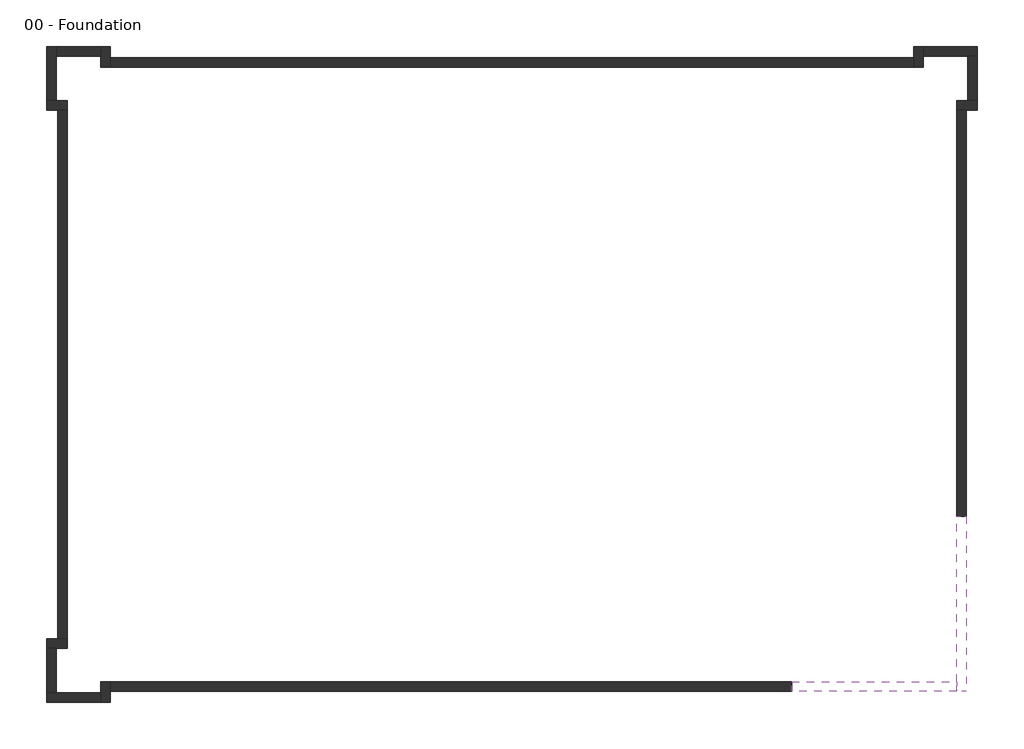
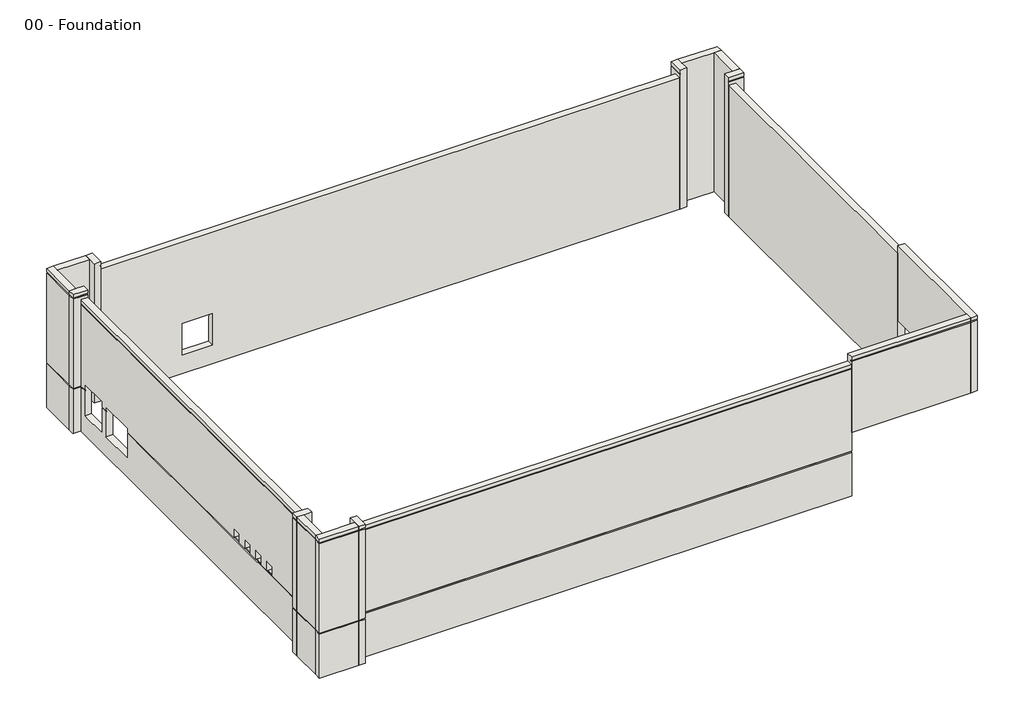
# One storey: 18 walls.
"""IFC4 building model written with IfcOpenShell, lengths in millimetres."""

from ifc_helpers import new_model, si_unit, frame, origin, place, context, project, spatial, polyline, outline, extrude, faceted_brep, element, save

model = new_model("IFC4")

# Units and contexts
model_context = context("Model", 3, world=origin())
ifc_project = project(units=[si_unit("LENGTHUNIT", "METRE", prefix="MILLI")], contexts=[model_context])

# Site, building, storey
site = spatial("IfcSite", under=ifc_project)
building = spatial("IfcBuilding", under=site)
storey = spatial("IfcBuildingStorey", under=building, Name="00 - Foundation", Elevation=-1250.0)

# Walls
placement = place(None, origin())
element("IfcWall", 1, ObjectType="Exterior - Render on Brick on Block @ Entry", at=placement, inside=storey, context=model_context, shape_type="Brep", body=[
    faceted_brep([(18351.5272279, -6481.9313057, 3000.0), (18351.5272279, -13977.9313057, 3000.0), (18351.5272279, -14406.9313057, 3000.0), (18351.5272279, -14406.9313057, 7700.0), (18351.5272279, -14331.9313057, 7700.0), (18351.5272279, -14331.9313057, 7775.0), (18351.5272279, -14406.9313057, 7775.0), (18351.5272279, -14406.9313057, 8000.0), (18351.5272279, -13977.9313057, 8000.0), (18351.5272279, -6481.9313057, 8000.0), (18351.5272279, -6481.9313057, 7500.0), (18780.5272279, -14406.9313057, 3000.0), (18780.5272279, -6481.9313057, 3000.0), (18780.5272279, -6481.9313057, 7200.0), (18780.5272279, -6481.9313057, 7275.0), (18780.5272279, -6481.9313057, 7500.0), (18780.5272279, -6481.9313057, 7700.0), (18780.5272279, -14406.9313057, 7700.0), (18780.5272279, -6481.9313057, 8000.0), (18780.5272279, -14406.9313057, 8000.0), (18780.5272279, -14406.9313057, 7775.0), (18780.5272279, -6481.9313057, 7775.0), (18705.5272279, -6481.9313057, 7775.0), (18705.5272279, -6481.9313057, 7700.0), (18705.5272279, -14331.9313057, 7775.0), (18705.5272279, -14331.9313057, 7700.0)], [[[0, 1, 2, 3, 4, 5, 6, 7, 8, 9, 10]], [[11, 12, 13, 14, 15, 16, 17]], [[18, 19, 20, 21]], [[2, 1, 0, 12, 11]], [[9, 8, 7, 19, 18]], [[0, 10, 9, 18, 21, 22, 23, 16, 15, 14, 13, 12]], [[24, 22, 21, 20, 6, 5]], [[23, 25, 4, 3, 17, 16]], [[22, 24, 25, 23]], [[2, 11, 17, 3]], [[19, 7, 6, 20]], [[25, 24, 5, 4]]]),
])
element("IfcWall", 2, ObjectType="Exterior - Render on Brick on Block @ Entry", at=placement, inside=storey, context=model_context, shape_type="Brep", body=[
    faceted_brep([(18351.5272279, -13977.9313057, 3000.0), (10855.5272279, -13977.9313057, 3000.0), (10855.5272279, -13977.9313057, 7500.0), (10855.5272279, -13977.9313057, 8000.0), (18351.5272279, -13977.9313057, 8000.0), (10855.5272279, -14406.9313057, 3000.0), (18351.5272279, -14406.9313057, 3000.0), (18351.5272279, -14406.9313057, 7700.0), (10855.5272279, -14406.9313057, 7700.0), (10855.5272279, -14406.9313057, 7500.0), (10855.5272279, -14406.9313057, 7275.0), (10855.5272279, -14406.9313057, 7200.0), (18351.5272279, -14406.9313057, 8000.0), (10855.5272279, -14406.9313057, 8000.0), (10855.5272279, -14406.9313057, 7775.0), (18351.5272279, -14406.9313057, 7775.0), (10855.5272279, -14331.9313057, 7700.0), (10855.5272279, -14331.9313057, 7775.0), (18351.5272279, -14331.9313057, 7700.0), (18351.5272279, -14331.9313057, 7775.0)], [[[0, 1, 2, 3, 4]], [[5, 6, 7, 8, 9, 10, 11]], [[12, 13, 14, 15]], [[1, 0, 6, 5]], [[3, 2, 1, 5, 11, 10, 9, 8, 16, 17, 14, 13]], [[4, 3, 13, 12]], [[16, 18, 19, 17]], [[0, 4, 12, 15, 19, 18, 7, 6]], [[17, 19, 15, 14]], [[18, 16, 8, 7]]]),
])
element("IfcWall", 3, ObjectType="Exterior - Render on Brick on Block", at=placement, inside=storey, context=model_context, shape_type="Brep", body=[
    faceted_brep([(10855.5272279, -13977.9313057, -1250.0), (-20031.4727721, -13977.9313057, -1250.0), (-20031.4727721, -13977.9313057, 7500.0), (10855.5272279, -13977.9313057, 7500.0), (10855.5272279, -13977.9313057, 3000.0), (10855.5272279, -14406.9313057, 7500.0), (-20031.4727721, -14406.9313057, 7500.0), (-20031.4727721, -14406.9313057, 7275.0), (10855.5272279, -14406.9313057, 7275.0), (-20031.4727721, -14406.9313057, -1250.0), (10855.5272279, -14406.9313057, -1250.0), (10855.5272279, -14406.9313057, 1675.0), (-20031.4727721, -14406.9313057, 1675.0), (-20031.4727721, -14406.9313057, 1750.0), (10855.5272279, -14406.9313057, 1750.0), (10855.5272279, -14406.9313057, 7200.0), (-20031.4727721, -14406.9313057, 7200.0), (10855.5272279, -14331.9313057, 7275.0), (10855.5272279, -14331.9313057, 7200.0), (10855.5272279, -14331.9313057, 1750.0), (10855.5272279, -14331.9313057, 1675.0), (10855.5272279, -14381.9313057, -1250.0), (-20031.4727721, -14381.9313057, -1250.0), (-20031.4727721, -14331.9313057, 1750.0), (-20031.4727721, -14331.9313057, 1675.0), (-20031.4727721, -14331.9313057, 7275.0), (-20031.4727721, -14331.9313057, 7200.0)], [[[0, 1, 2, 3, 4]], [[5, 6, 7, 8]], [[9, 10, 11, 12]], [[13, 14, 15, 16]], [[3, 2, 6, 5]], [[0, 4, 3, 5, 8, 17, 18, 15, 14, 19, 20, 11, 10, 21]], [[1, 0, 21, 22]], [[21, 10, 9, 22]], [[14, 13, 23, 19]], [[12, 11, 20, 24]], [[20, 19, 23, 24]], [[25, 17, 8, 7]], [[18, 26, 16, 15]], [[17, 25, 26, 18]], [[2, 1, 22, 9, 12, 24, 23, 13, 16, 26, 25, 7, 6]]]),
])
element("IfcWall", 4, ObjectType="Exterior - Render on Brick on Block", at=placement, inside=storey, context=model_context, shape_type="Brep", body=[
    faceted_brep([(-20460.4727721, -13977.9313057, -1250.0), (-20460.4727721, -14477.7313057, -1250.0), (-20460.4727721, -14906.7313057, -1250.0), (-20460.4727721, -14906.7313057, 1675.0), (-20460.4727721, -14831.7313057, 1675.0), (-20460.4727721, -14831.7313057, 1750.0), (-20460.4727721, -14906.7313057, 1750.0), (-20460.4727721, -14906.7313057, 7700.0), (-20460.4727721, -14831.7313057, 7700.0), (-20460.4727721, -14831.7313057, 7775.0), (-20460.4727721, -14906.7313057, 7775.0), (-20460.4727721, -14906.7313057, 8000.0), (-20460.4727721, -14477.7313057, 8000.0), (-20460.4727721, -13977.9313057, 8000.0), (-20031.4727721, -13977.9313057, 8000.0), (-20031.4727721, -14906.7313057, 8000.0), (-20031.4727721, -14906.7313057, 7775.0), (-20031.4727721, -13977.9313057, 7775.0), (-20031.4727721, -14906.7313057, -1250.0), (-20031.4727721, -14406.9313057, -1250.0), (-20031.4727721, -13977.9313057, -1250.0), (-20031.4727721, -13977.9313057, 7500.0), (-20031.4727721, -13977.9313057, 7700.0), (-20031.4727721, -14906.7313057, 7700.0), (-20031.4727721, -14906.7313057, 1750.0), (-20031.4727721, -14406.9313057, 1750.0), (-20031.4727721, -14331.9313057, 1750.0), (-20031.4727721, -14331.9313057, 1675.0), (-20031.4727721, -14406.9313057, 1675.0), (-20031.4727721, -14906.7313057, 1675.0), (-20056.4727721, -13977.9313057, -1250.0), (-20056.4727721, -14906.7313057, -1250.0), (-20106.4727721, -14331.9313057, 1675.0), (-20106.4727721, -14331.9313057, 1750.0), (-20106.4727721, -14831.7313057, 1750.0), (-20106.4727721, -14831.7313057, 1675.0), (-20106.4727721, -14831.7313057, 7775.0), (-20106.4727721, -13977.9313057, 7775.0), (-20106.4727721, -13977.9313057, 7700.0), (-20106.4727721, -14831.7313057, 7700.0)], [[[0, 1, 2, 3, 4, 5, 6, 7, 8, 9, 10, 11, 12, 13]], [[14, 15, 16, 17]], [[18, 19, 20, 21, 22, 23, 24, 25, 26, 27, 28, 29]], [[13, 12, 11, 15, 14]], [[2, 1, 0, 30, 31]], [[32, 33, 34, 35]], [[36, 37, 17, 16, 10, 9]], [[38, 39, 8, 7, 23, 22]], [[37, 36, 39, 38]], [[0, 13, 14, 17, 37, 38, 22, 21, 20, 30]], [[20, 19, 18, 31, 30]], [[34, 33, 26, 25, 24, 6, 5]], [[32, 35, 4, 3, 29, 28, 27]], [[33, 32, 27, 26]], [[15, 11, 10, 16]], [[2, 31, 18, 29, 3]], [[6, 24, 23, 7]], [[35, 34, 5, 4]], [[39, 36, 9, 8]]]),
])
element("IfcWall", 5, ObjectType="Exterior - Render on Brick on Block", at=placement, inside=storey, context=model_context, shape_type="Brep", body=[
    faceted_brep([(-20460.4727721, -14477.7313057, -1250.0), (-22490.4727721, -14477.7313057, -1250.0), (-22919.4727721, -14477.7313057, -1250.0), (-22919.4727721, -14477.7313057, 1675.0), (-22844.4727721, -14477.7313057, 1675.0), (-22844.4727721, -14477.7313057, 1750.0), (-22919.4727721, -14477.7313057, 1750.0), (-22919.4727721, -14477.7313057, 7700.0), (-22844.4727721, -14477.7313057, 7700.0), (-22844.4727721, -14477.7313057, 7775.0), (-22919.4727721, -14477.7313057, 7775.0), (-22919.4727721, -14477.7313057, 8000.0), (-22490.4727721, -14477.7313057, 8000.0), (-20460.4727721, -14477.7313057, 8000.0), (-20460.4727721, -14906.7313057, 8000.0), (-22919.4727721, -14906.7313057, 8000.0), (-22919.4727721, -14906.7313057, 7775.0), (-20460.4727721, -14906.7313057, 7775.0), (-22919.4727721, -14906.7313057, -1250.0), (-20460.4727721, -14906.7313057, -1250.0), (-20460.4727721, -14906.7313057, 1675.0), (-22919.4727721, -14906.7313057, 1675.0), (-22919.4727721, -14906.7313057, 1750.0), (-20460.4727721, -14906.7313057, 1750.0), (-20460.4727721, -14906.7313057, 7700.0), (-22919.4727721, -14906.7313057, 7700.0), (-20460.4727721, -14881.7313057, -1250.0), (-22919.4727721, -14881.7313057, -1250.0), (-22844.4727721, -14831.7313057, 1675.0), (-20460.4727721, -14831.7313057, 1675.0), (-20460.4727721, -14831.7313057, 1750.0), (-22844.4727721, -14831.7313057, 1750.0), (-22844.4727721, -14831.7313057, 7775.0), (-22844.4727721, -14831.7313057, 7700.0), (-20460.4727721, -14831.7313057, 7700.0), (-20460.4727721, -14831.7313057, 7775.0)], [[[0, 1, 2, 3, 4, 5, 6, 7, 8, 9, 10, 11, 12, 13]], [[14, 15, 16, 17]], [[18, 19, 20, 21]], [[22, 23, 24, 25]], [[13, 12, 11, 15, 14]], [[2, 1, 0, 26, 27]], [[28, 29, 30, 31]], [[32, 33, 34, 35]], [[0, 13, 14, 17, 35, 34, 24, 23, 30, 29, 20, 19, 26]], [[19, 18, 27, 26]], [[31, 30, 23, 22, 6, 5]], [[29, 28, 4, 3, 21, 20]], [[9, 32, 35, 17, 16, 10]], [[34, 33, 8, 7, 25, 24]], [[15, 11, 10, 16]], [[2, 27, 18, 21, 3]], [[6, 22, 25, 7]], [[28, 31, 5, 4]], [[33, 32, 9, 8]]]),
])
element("IfcWall", 6, ObjectType="Exterior - Render on Brick on Block", at=placement, inside=storey, context=model_context, shape_type="SweptSolid", body=[
    extrude(outline(polyline([(-1250.0, -22490.4727721), (8000.0, -22490.4727721), (8000.0, -22919.4727721), (7775.0, -22919.4727721), (7775.0, -22844.4727721), (7700.0, -22844.4727721), (7700.0, -22919.4727721), (1750.0, -22919.4727721), (1750.0, -22844.4727721), (1675.0, -22844.4727721), (1675.0, -22919.4727721), (-1250.0, -22919.4727721), (-1250.0, -22894.4727721), (-1250.0, -22490.4727721)])), frame((0.0, -14477.7313057, 0.0), z_axis=(0.0, 1.0, 0.0), x_axis=(0.0, 0.0, 1.0)), (0.0, 0.0, 1.0), 2030.0),
])
element("IfcWall", 7, ObjectType="Exterior - Render on Brick on Block", at=placement, inside=storey, context=model_context, shape_type="Brep", body=[
    faceted_brep([(-22919.4727721, -12447.7313057, -1250.0), (-22490.4727721, -12447.7313057, -1250.0), (-21990.4727721, -12447.7313057, -1250.0), (-21990.4727721, -12447.7313057, 8000.0), (-22490.4727721, -12447.7313057, 8000.0), (-22919.4727721, -12447.7313057, 8000.0), (-22919.4727721, -12447.7313057, 7775.0), (-22844.4727721, -12447.7313057, 7775.0), (-22844.4727721, -12447.7313057, 7700.0), (-22919.4727721, -12447.7313057, 7700.0), (-22919.4727721, -12447.7313057, 1750.0), (-22844.4727721, -12447.7313057, 1750.0), (-22844.4727721, -12447.7313057, 1675.0), (-22919.4727721, -12447.7313057, 1675.0), (-22919.4727721, -12018.7313057, 8000.0), (-21990.4727721, -12018.7313057, 8000.0), (-21990.4727721, -12018.7313057, 7775.0), (-22919.4727721, -12018.7313057, 7775.0), (-21990.4727721, -12018.7313057, -1250.0), (-22419.4727721, -12018.7313057, -1250.0), (-22919.4727721, -12018.7313057, -1250.0), (-22919.4727721, -12018.7313057, 1675.0), (-22419.4727721, -12018.7313057, 1675.0), (-22344.4727721, -12018.7313057, 1675.0), (-22344.4727721, -12018.7313057, 1750.0), (-22419.4727721, -12018.7313057, 1750.0), (-22919.4727721, -12018.7313057, 1750.0), (-22919.4727721, -12018.7313057, 7700.0), (-21990.4727721, -12018.7313057, 7700.0), (-21990.4727721, -12018.7313057, 7500.0), (-22919.4727721, -12043.7313057, -1250.0), (-21990.4727721, -12043.7313057, -1250.0), (-22844.4727721, -12093.7313057, 1675.0), (-22844.4727721, -12093.7313057, 1750.0), (-22344.4727721, -12093.7313057, 1750.0), (-22344.4727721, -12093.7313057, 1675.0), (-22844.4727721, -12093.7313057, 7775.0), (-21990.4727721, -12093.7313057, 7775.0), (-21990.4727721, -12093.7313057, 7700.0), (-22844.4727721, -12093.7313057, 7700.0)], [[[0, 1, 2, 3, 4, 5, 6, 7, 8, 9, 10, 11, 12, 13]], [[14, 15, 16, 17]], [[18, 19, 20, 21, 22, 23, 24, 25, 26, 27, 28, 29]], [[5, 4, 3, 15, 14]], [[2, 1, 0, 30, 31]], [[32, 33, 34, 35]], [[36, 37, 38, 39]], [[5, 14, 17, 6]], [[30, 0, 13, 21, 20]], [[26, 10, 9, 27]], [[20, 19, 18, 31, 30]], [[34, 33, 11, 10, 26, 25, 24]], [[32, 35, 23, 22, 21, 13, 12]], [[33, 32, 12, 11]], [[37, 36, 7, 6, 17, 16]], [[39, 38, 28, 27, 9, 8]], [[36, 39, 8, 7]], [[3, 2, 31, 18, 29, 28, 38, 37, 16, 15]], [[35, 34, 24, 23]]]),
])
element("IfcWall", 8, ObjectType="Exterior - Render on Brick on Block", at=placement, inside=storey, context=model_context, shape_type="Brep", body=[
    faceted_brep([(-21990.4727721, -12018.7313057, -1250.0), (-21990.4727721, 11955.0686943, -1250.0), (-21990.4727721, 11955.0686943, 7500.0), (-21990.4727721, -12018.7313057, 7500.0), (-21990.4727721, 9255.0686943, 2000.0), (-21990.4727721, 9255.0686943, 0.0), (-21990.4727721, 6855.0686943, 0.0), (-21990.4727721, 6855.0686943, 2000.0), (-21990.4727721, 9655.0686943, 2100.0), (-21990.4727721, 11555.0686943, 2100.0), (-21990.4727721, 11555.0686943, 0.0), (-21990.4727721, 9655.0686943, 0.0), (-21990.4727721, -5291.1813057, 1750.0), (-21990.4727721, -5291.1813057, 2360.0), (-21990.4727721, -4681.1813057, 2360.0), (-21990.4727721, -4681.1813057, 1750.0), (-21990.4727721, -6501.1813057, 1750.0), (-21990.4727721, -6501.1813057, 2360.0), (-21990.4727721, -5891.1813057, 2360.0), (-21990.4727721, -5891.1813057, 1750.0), (-21990.4727721, -7711.1813057, 1750.0), (-21990.4727721, -7711.1813057, 2360.0), (-21990.4727721, -7101.1813057, 2360.0), (-21990.4727721, -7101.1813057, 1750.0), (-21990.4727721, -8921.1813057, 1750.0), (-21990.4727721, -8921.1813057, 2360.0), (-21990.4727721, -8311.1813057, 2360.0), (-21990.4727721, -8311.1813057, 1750.0), (-22419.4727721, -12018.7313057, 7500.0), (-22419.4727721, 11955.0686943, 7500.0), (-22419.4727721, 11955.0686943, 7275.0), (-22419.4727721, -12018.7313057, 7275.0), (-22419.4727721, 11955.0686943, -1250.0), (-22419.4727721, -12018.7313057, -1250.0), (-22419.4727721, -12018.7313057, 1675.0), (-22419.4727721, 6855.0686943, 1675.0), (-22419.4727721, 6855.0686943, 0.0), (-22419.4727721, 9255.0686943, 0.0), (-22419.4727721, 9255.0686943, 1675.0), (-22419.4727721, 9655.0686943, 1675.0), (-22419.4727721, 9655.0686943, 0.0), (-22419.4727721, 11555.0686943, 0.0), (-22419.4727721, 11555.0686943, 1675.0), (-22419.4727721, 11955.0686943, 1675.0), (-22419.4727721, 11955.0686943, 1750.0), (-22419.4727721, 11555.0686943, 1750.0), (-22419.4727721, 11555.0686943, 2100.0), (-22419.4727721, 9655.0686943, 2100.0), (-22419.4727721, 9655.0686943, 1750.0), (-22419.4727721, 9255.0686943, 1750.0), (-22419.4727721, 9255.0686943, 2000.0), (-22419.4727721, 6855.0686943, 2000.0), (-22419.4727721, 6855.0686943, 1750.0), (-22419.4727721, -4681.1813057, 1750.0), (-22419.4727721, -4681.1813057, 2360.0), (-22419.4727721, -5291.1813057, 2360.0), (-22419.4727721, -5291.1813057, 1750.0), (-22419.4727721, -5891.1813057, 1750.0), (-22419.4727721, -5891.1813057, 2360.0), (-22419.4727721, -6501.1813057, 2360.0), (-22419.4727721, -6501.1813057, 1750.0), (-22419.4727721, -7101.1813057, 1750.0), (-22419.4727721, -7101.1813057, 2360.0), (-22419.4727721, -7711.1813057, 2360.0), (-22419.4727721, -7711.1813057, 1750.0), (-22419.4727721, -8311.1813057, 1750.0), (-22419.4727721, -8311.1813057, 2360.0), (-22419.4727721, -8921.1813057, 2360.0), (-22419.4727721, -8921.1813057, 1750.0), (-22419.4727721, -12018.7313057, 1750.0), (-22419.4727721, -12018.7313057, 7200.0), (-22419.4727721, 11955.0686943, 7200.0), (-22394.4727721, -12018.7313057, -1250.0), (-22394.4727721, 11955.0686943, -1250.0), (-22344.4727721, 11955.0686943, 1750.0), (-22344.4727721, 11555.0686943, 1750.0), (-22344.4727721, 11555.0686943, 1675.0), (-22344.4727721, 11955.0686943, 1675.0), (-22344.4727721, 11955.0686943, 7275.0), (-22344.4727721, -12018.7313057, 7275.0), (-22344.4727721, -12018.7313057, 7200.0), (-22344.4727721, 11955.0686943, 7200.0), (-22344.4727721, -12018.7313057, 1750.0), (-22344.4727721, -12018.7313057, 1675.0), (-22344.4727721, -8921.1813057, 1750.0), (-22344.4727721, 6855.0686943, 1750.0), (-22344.4727721, -4681.1813057, 1750.0), (-22344.4727721, -5291.1813057, 1750.0), (-22344.4727721, -5891.1813057, 1750.0), (-22344.4727721, -6501.1813057, 1750.0), (-22344.4727721, -7101.1813057, 1750.0), (-22344.4727721, -7711.1813057, 1750.0), (-22344.4727721, -8311.1813057, 1750.0), (-22344.4727721, 6855.0686943, 1675.0), (-22344.4727721, 9255.0686943, 1750.0), (-22344.4727721, 9255.0686943, 1675.0), (-22344.4727721, 9655.0686943, 1750.0), (-22344.4727721, 9655.0686943, 1675.0)], [[[0, 1, 2, 3], [4, 5, 6, 7], [8, 9, 10, 11], [12, 13, 14, 15], [16, 17, 18, 19], [20, 21, 22, 23], [24, 25, 26, 27]], [[28, 29, 30, 31]], [[32, 33, 34, 35, 36, 37, 38, 39, 40, 41, 42, 43]], [[44, 45, 46, 47, 48, 49, 50, 51, 52, 53, 54, 55, 56, 57, 58, 59, 60, 61, 62, 63, 64, 65, 66, 67, 68, 69, 70, 71]], [[3, 2, 29, 28]], [[1, 0, 72, 73]], [[45, 44, 74, 75]], [[43, 42, 76, 77]], [[77, 76, 75, 74]], [[78, 79, 31, 30]], [[80, 81, 71, 70]], [[79, 78, 81, 80]], [[0, 3, 28, 31, 79, 80, 70, 69, 82, 83, 34, 33, 72]], [[33, 32, 73, 72]], [[69, 68, 84, 82]], [[52, 85, 86, 53]], [[57, 56, 87, 88]], [[61, 60, 89, 90]], [[65, 64, 91, 92]], [[35, 34, 83, 93]], [[2, 1, 73, 32, 43, 77, 74, 44, 71, 81, 78, 30, 29]], [[5, 4, 50, 49, 94, 95, 38, 37]], [[51, 50, 4, 7]], [[7, 6, 36, 35, 93, 85, 52, 51]], [[37, 36, 6, 5]], [[94, 96, 97, 95]], [[96, 94, 49, 48]], [[95, 97, 39, 38]], [[8, 47, 46, 9]], [[47, 8, 11, 40, 39, 97, 96, 48]], [[40, 11, 10, 41]], [[9, 46, 45, 75, 76, 42, 41, 10]], [[93, 83, 82, 84, 92, 91, 90, 89, 88, 87, 86, 85]], [[13, 12, 87, 56, 55]], [[14, 13, 55, 54]], [[15, 14, 54, 53, 86]], [[12, 15, 86, 87]], [[17, 16, 89, 60, 59]], [[18, 17, 59, 58]], [[19, 18, 58, 57, 88]], [[16, 19, 88, 89]], [[21, 20, 91, 64, 63]], [[22, 21, 63, 62]], [[23, 22, 62, 61, 90]], [[20, 23, 90, 91]], [[25, 24, 84, 68, 67]], [[26, 25, 67, 66]], [[27, 26, 66, 65, 92]], [[24, 27, 92, 84]]]),
])
element("IfcWall", 9, ObjectType="Exterior - Render on Brick on Block", at=placement, inside=storey, context=model_context, shape_type="Brep", body=[
    faceted_brep([(-21990.4727721, 12384.0686943, -1250.0), (-22490.4727721, 12384.0686943, -1250.0), (-22919.4727721, 12384.0686943, -1250.0), (-22919.4727721, 12384.0686943, 1675.0), (-22844.4727721, 12384.0686943, 1675.0), (-22844.4727721, 12384.0686943, 1750.0), (-22919.4727721, 12384.0686943, 1750.0), (-22919.4727721, 12384.0686943, 7700.0), (-22844.4727721, 12384.0686943, 7700.0), (-22844.4727721, 12384.0686943, 7775.0), (-22919.4727721, 12384.0686943, 7775.0), (-22919.4727721, 12384.0686943, 8000.0), (-22490.4727721, 12384.0686943, 8000.0), (-21990.4727721, 12384.0686943, 8000.0), (-21990.4727721, 11955.0686943, 8000.0), (-22919.4727721, 11955.0686943, 8000.0), (-22919.4727721, 11955.0686943, 7775.0), (-21990.4727721, 11955.0686943, 7775.0), (-22919.4727721, 11955.0686943, -1250.0), (-22419.4727721, 11955.0686943, -1250.0), (-21990.4727721, 11955.0686943, -1250.0), (-21990.4727721, 11955.0686943, 7500.0), (-21990.4727721, 11955.0686943, 7700.0), (-22919.4727721, 11955.0686943, 7700.0), (-22919.4727721, 11955.0686943, 1750.0), (-22419.4727721, 11955.0686943, 1750.0), (-22344.4727721, 11955.0686943, 1750.0), (-22344.4727721, 11955.0686943, 1675.0), (-22419.4727721, 11955.0686943, 1675.0), (-22919.4727721, 11955.0686943, 1675.0), (-21990.4727721, 11980.0686943, -1250.0), (-22919.4727721, 11980.0686943, -1250.0), (-22344.4727721, 12030.0686943, 1675.0), (-22344.4727721, 12030.0686943, 1750.0), (-22844.4727721, 12030.0686943, 1750.0), (-22844.4727721, 12030.0686943, 1675.0), (-22844.4727721, 12030.0686943, 7775.0), (-21990.4727721, 12030.0686943, 7775.0), (-21990.4727721, 12030.0686943, 7700.0), (-22844.4727721, 12030.0686943, 7700.0)], [[[0, 1, 2, 3, 4, 5, 6, 7, 8, 9, 10, 11, 12, 13]], [[14, 15, 16, 17]], [[18, 19, 20, 21, 22, 23, 24, 25, 26, 27, 28, 29]], [[13, 12, 11, 15, 14]], [[2, 1, 0, 30, 31]], [[32, 33, 34, 35]], [[36, 37, 17, 16, 10, 9]], [[38, 39, 8, 7, 23, 22]], [[37, 36, 39, 38]], [[0, 13, 14, 17, 37, 38, 22, 21, 20, 30]], [[20, 19, 18, 31, 30]], [[34, 33, 26, 25, 24, 6, 5]], [[32, 35, 4, 3, 29, 28, 27]], [[33, 32, 27, 26]], [[15, 11, 10, 16]], [[2, 31, 18, 29, 3]], [[6, 24, 23, 7]], [[35, 34, 5, 4]], [[39, 36, 9, 8]]]),
])
element("IfcWall", 10, ObjectType="Exterior - Render on Brick on Block", at=placement, inside=storey, context=model_context, shape_type="Brep", body=[
    faceted_brep([(-22490.4727721, 12384.0686943, -1250.0), (-22490.4727721, 14414.0686943, -1250.0), (-22490.4727721, 14843.0686943, -1250.0), (-22490.4727721, 14843.0686943, 1675.0), (-22490.4727721, 14768.0686943, 1675.0), (-22490.4727721, 14768.0686943, 1750.0), (-22490.4727721, 14843.0686943, 1750.0), (-22490.4727721, 14843.0686943, 7700.0), (-22490.4727721, 14768.0686943, 7700.0), (-22490.4727721, 14768.0686943, 7775.0), (-22490.4727721, 14843.0686943, 7775.0), (-22490.4727721, 14843.0686943, 8000.0), (-22490.4727721, 14414.0686943, 8000.0), (-22490.4727721, 12384.0686943, 8000.0), (-22919.4727721, 12384.0686943, 8000.0), (-22919.4727721, 14843.0686943, 8000.0), (-22919.4727721, 14843.0686943, 7775.0), (-22919.4727721, 12384.0686943, 7775.0), (-22919.4727721, 14843.0686943, -1250.0), (-22919.4727721, 12384.0686943, -1250.0), (-22919.4727721, 12384.0686943, 1675.0), (-22919.4727721, 14843.0686943, 1675.0), (-22919.4727721, 14843.0686943, 1750.0), (-22919.4727721, 12384.0686943, 1750.0), (-22919.4727721, 12384.0686943, 7700.0), (-22919.4727721, 14843.0686943, 7700.0), (-22894.4727721, 12384.0686943, -1250.0), (-22894.4727721, 14843.0686943, -1250.0), (-22844.4727721, 14768.0686943, 1675.0), (-22844.4727721, 12384.0686943, 1675.0), (-22844.4727721, 12384.0686943, 1750.0), (-22844.4727721, 14768.0686943, 1750.0), (-22844.4727721, 14768.0686943, 7775.0), (-22844.4727721, 14768.0686943, 7700.0), (-22844.4727721, 12384.0686943, 7700.0), (-22844.4727721, 12384.0686943, 7775.0)], [[[0, 1, 2, 3, 4, 5, 6, 7, 8, 9, 10, 11, 12, 13]], [[14, 15, 16, 17]], [[18, 19, 20, 21]], [[22, 23, 24, 25]], [[13, 12, 11, 15, 14]], [[2, 1, 0, 26, 27]], [[28, 29, 30, 31]], [[32, 33, 34, 35]], [[0, 13, 14, 17, 35, 34, 24, 23, 30, 29, 20, 19, 26]], [[19, 18, 27, 26]], [[31, 30, 23, 22, 6, 5]], [[29, 28, 4, 3, 21, 20]], [[9, 32, 35, 17, 16, 10]], [[34, 33, 8, 7, 25, 24]], [[15, 11, 10, 16]], [[2, 27, 18, 21, 3]], [[6, 22, 25, 7]], [[28, 31, 5, 4]], [[33, 32, 9, 8]]]),
])
element("IfcWall", 11, ObjectType="Exterior - Render on Brick on Block", at=placement, inside=storey, context=model_context, shape_type="SweptSolid", body=[
    extrude(outline(polyline([(14414.0686943, -1250.0), (14414.0686943, 8000.0), (14843.0686943, 8000.0), (14843.0686943, 7775.0), (14768.0686943, 7775.0), (14768.0686943, 7700.0), (14843.0686943, 7700.0), (14843.0686943, 1750.0), (14768.0686943, 1750.0), (14768.0686943, 1675.0), (14843.0686943, 1675.0), (14843.0686943, -1250.0), (14818.0686943, -1250.0), (14414.0686943, -1250.0)])), frame((-22490.4727721, 0.0, 0.0), z_axis=(1.0, 0.0, 0.0), x_axis=(0.0, 1.0, 0.0)), (0.0, 0.0, 1.0), 2030.0),
])
element("IfcWall", 12, ObjectType="Exterior - Render on Brick on Block", at=placement, inside=storey, context=model_context, shape_type="Brep", body=[
    faceted_brep([(-20460.4727721, 14843.0686943, -1250.0), (-20460.4727721, 14414.0686943, -1250.0), (-20460.4727721, 13914.0686943, -1250.0), (-20460.4727721, 13914.0686943, 8000.0), (-20460.4727721, 14414.0686943, 8000.0), (-20460.4727721, 14843.0686943, 8000.0), (-20460.4727721, 14843.0686943, 7775.0), (-20460.4727721, 14768.0686943, 7775.0), (-20460.4727721, 14768.0686943, 7700.0), (-20460.4727721, 14843.0686943, 7700.0), (-20460.4727721, 14843.0686943, 1750.0), (-20460.4727721, 14768.0686943, 1750.0), (-20460.4727721, 14768.0686943, 1675.0), (-20460.4727721, 14843.0686943, 1675.0), (-20031.4727721, 14843.0686943, 8000.0), (-20031.4727721, 13914.0686943, 8000.0), (-20031.4727721, 13914.0686943, 7775.0), (-20031.4727721, 14843.0686943, 7775.0), (-20031.4727721, 13914.0686943, -1250.0), (-20031.4727721, 14343.0686943, -1250.0), (-20031.4727721, 14843.0686943, -1250.0), (-20031.4727721, 14843.0686943, 1675.0), (-20031.4727721, 14343.0686943, 1675.0), (-20031.4727721, 14268.0686943, 1675.0), (-20031.4727721, 14268.0686943, 1750.0), (-20031.4727721, 14343.0686943, 1750.0), (-20031.4727721, 14843.0686943, 1750.0), (-20031.4727721, 14843.0686943, 7700.0), (-20031.4727721, 13914.0686943, 7700.0), (-20031.4727721, 13914.0686943, 7500.0), (-20056.4727721, 14843.0686943, -1250.0), (-20056.4727721, 13914.0686943, -1250.0), (-20106.4727721, 14768.0686943, 1675.0), (-20106.4727721, 14768.0686943, 1750.0), (-20106.4727721, 14268.0686943, 1750.0), (-20106.4727721, 14268.0686943, 1675.0), (-20106.4727721, 14768.0686943, 7775.0), (-20106.4727721, 13914.0686943, 7775.0), (-20106.4727721, 13914.0686943, 7700.0), (-20106.4727721, 14768.0686943, 7700.0)], [[[0, 1, 2, 3, 4, 5, 6, 7, 8, 9, 10, 11, 12, 13]], [[14, 15, 16, 17]], [[18, 19, 20, 21, 22, 23, 24, 25, 26, 27, 28, 29]], [[5, 4, 3, 15, 14]], [[2, 1, 0, 30, 31]], [[32, 33, 34, 35]], [[36, 37, 38, 39]], [[5, 14, 17, 6]], [[30, 0, 13, 21, 20]], [[26, 10, 9, 27]], [[20, 19, 18, 31, 30]], [[34, 33, 11, 10, 26, 25, 24]], [[32, 35, 23, 22, 21, 13, 12]], [[33, 32, 12, 11]], [[37, 36, 7, 6, 17, 16]], [[39, 38, 28, 27, 9, 8]], [[36, 39, 8, 7]], [[3, 2, 31, 18, 29, 28, 38, 37, 16, 15]], [[35, 34, 24, 23]]]),
])
element("IfcWall", 13, ObjectType="Exterior - Render on Brick on Block", at=placement, inside=storey, context=model_context, shape_type="Brep", body=[
    faceted_brep([(-20031.4727721, 13914.0686943, -1250.0), (16392.5272279, 13914.0686943, -1250.0), (16392.5272279, 13914.0686943, 7500.0), (-20031.4727721, 13914.0686943, 7500.0), (-14912.4227721, 13914.0686943, 0.0), (-14912.4227721, 13914.0686943, 2100.0), (-13012.4227721, 13914.0686943, 2100.0), (-13012.4227721, 13914.0686943, 0.0), (-20031.4727721, 14343.0686943, 7500.0), (16392.5272279, 14343.0686943, 7500.0), (16392.5272279, 14343.0686943, 7275.0), (-20031.4727721, 14343.0686943, 7275.0), (16392.5272279, 14343.0686943, -1250.0), (-20031.4727721, 14343.0686943, -1250.0), (-20031.4727721, 14343.0686943, 1675.0), (-14912.4227721, 14343.0686943, 1675.0), (-14912.4227721, 14343.0686943, 0.0), (-13012.4227721, 14343.0686943, 0.0), (-13012.4227721, 14343.0686943, 1675.0), (16392.5272279, 14343.0686943, 1675.0), (16392.5272279, 14343.0686943, 1750.0), (-13012.4227721, 14343.0686943, 1750.0), (-13012.4227721, 14343.0686943, 2100.0), (-14912.4227721, 14343.0686943, 2100.0), (-14912.4227721, 14343.0686943, 1750.0), (-20031.4727721, 14343.0686943, 1750.0), (-20031.4727721, 14343.0686943, 7200.0), (16392.5272279, 14343.0686943, 7200.0), (-20031.4727721, 14318.0686943, -1250.0), (16392.5272279, 14318.0686943, -1250.0), (16392.5272279, 14268.0686943, 1750.0), (-13012.4227721, 14268.0686943, 1750.0), (-13012.4227721, 14268.0686943, 1675.0), (16392.5272279, 14268.0686943, 1675.0), (16392.5272279, 14268.0686943, 7275.0), (-20031.4727721, 14268.0686943, 7275.0), (-20031.4727721, 14268.0686943, 7200.0), (16392.5272279, 14268.0686943, 7200.0), (-20031.4727721, 14268.0686943, 1750.0), (-20031.4727721, 14268.0686943, 1675.0), (-14912.4227721, 14268.0686943, 1750.0), (-14912.4227721, 14268.0686943, 1675.0)], [[[0, 1, 2, 3], [4, 5, 6, 7]], [[8, 9, 10, 11]], [[12, 13, 14, 15, 16, 17, 18, 19]], [[20, 21, 22, 23, 24, 25, 26, 27]], [[3, 2, 9, 8]], [[1, 0, 28, 29]], [[21, 20, 30, 31]], [[19, 18, 32, 33]], [[33, 32, 31, 30]], [[34, 35, 11, 10]], [[36, 37, 27, 26]], [[35, 34, 37, 36]], [[0, 3, 8, 11, 35, 36, 26, 25, 38, 39, 14, 13, 28]], [[13, 12, 29, 28]], [[25, 24, 40, 38]], [[15, 14, 39, 41]], [[2, 1, 29, 12, 19, 33, 30, 20, 27, 37, 34, 10, 9]], [[5, 4, 16, 15, 41, 40, 24, 23]], [[6, 5, 23, 22]], [[7, 6, 22, 21, 31, 32, 18, 17]], [[4, 7, 17, 16]], [[38, 40, 41, 39]]]),
])
element("IfcWall", 14, ObjectType="Exterior - Render on Brick on Block", at=placement, inside=storey, context=model_context, shape_type="Brep", body=[
    faceted_brep([(16821.5272279, 13914.0686943, -1250.0), (16821.5272279, 14414.0686943, -1250.0), (16821.5272279, 14843.0686943, -1250.0), (16821.5272279, 14843.0686943, 1675.0), (16821.5272279, 14768.0686943, 1675.0), (16821.5272279, 14768.0686943, 1750.0), (16821.5272279, 14843.0686943, 1750.0), (16821.5272279, 14843.0686943, 7700.0), (16821.5272279, 14768.0686943, 7700.0), (16821.5272279, 14768.0686943, 7775.0), (16821.5272279, 14843.0686943, 7775.0), (16821.5272279, 14843.0686943, 8000.0), (16821.5272279, 14414.0686943, 8000.0), (16821.5272279, 13914.0686943, 8000.0), (16392.5272279, 13914.0686943, 8000.0), (16392.5272279, 14843.0686943, 8000.0), (16392.5272279, 14843.0686943, 7775.0), (16392.5272279, 13914.0686943, 7775.0), (16392.5272279, 14843.0686943, -1250.0), (16392.5272279, 14343.0686943, -1250.0), (16392.5272279, 13914.0686943, -1250.0), (16392.5272279, 13914.0686943, 7500.0), (16392.5272279, 13914.0686943, 7700.0), (16392.5272279, 14843.0686943, 7700.0), (16392.5272279, 14843.0686943, 1750.0), (16392.5272279, 14343.0686943, 1750.0), (16392.5272279, 14268.0686943, 1750.0), (16392.5272279, 14268.0686943, 1675.0), (16392.5272279, 14343.0686943, 1675.0), (16392.5272279, 14843.0686943, 1675.0), (16417.5272279, 13914.0686943, -1250.0), (16417.5272279, 14843.0686943, -1250.0), (16467.5272279, 14268.0686943, 1675.0), (16467.5272279, 14268.0686943, 1750.0), (16467.5272279, 14768.0686943, 1750.0), (16467.5272279, 14768.0686943, 1675.0), (16467.5272279, 14768.0686943, 7775.0), (16467.5272279, 13914.0686943, 7775.0), (16467.5272279, 13914.0686943, 7700.0), (16467.5272279, 14768.0686943, 7700.0)], [[[0, 1, 2, 3, 4, 5, 6, 7, 8, 9, 10, 11, 12, 13]], [[14, 15, 16, 17]], [[18, 19, 20, 21, 22, 23, 24, 25, 26, 27, 28, 29]], [[13, 12, 11, 15, 14]], [[2, 1, 0, 30, 31]], [[32, 33, 34, 35]], [[36, 37, 17, 16, 10, 9]], [[38, 39, 8, 7, 23, 22]], [[37, 36, 39, 38]], [[0, 13, 14, 17, 37, 38, 22, 21, 20, 30]], [[20, 19, 18, 31, 30]], [[34, 33, 26, 25, 24, 6, 5]], [[32, 35, 4, 3, 29, 28, 27]], [[33, 32, 27, 26]], [[15, 11, 10, 16]], [[2, 31, 18, 29, 3]], [[6, 24, 23, 7]], [[35, 34, 5, 4]], [[39, 36, 9, 8]]]),
])
element("IfcWall", 15, ObjectType="Exterior - Render on Brick on Block", at=placement, inside=storey, context=model_context, shape_type="Brep", body=[
    faceted_brep([(16821.5272279, 14414.0686943, -1250.0), (18851.5272279, 14414.0686943, -1250.0), (19280.5272279, 14414.0686943, -1250.0), (19280.5272279, 14414.0686943, 1675.0), (19205.5272279, 14414.0686943, 1675.0), (19205.5272279, 14414.0686943, 1750.0), (19280.5272279, 14414.0686943, 1750.0), (19280.5272279, 14414.0686943, 7700.0), (19205.5272279, 14414.0686943, 7700.0), (19205.5272279, 14414.0686943, 7775.0), (19280.5272279, 14414.0686943, 7775.0), (19280.5272279, 14414.0686943, 8000.0), (18851.5272279, 14414.0686943, 8000.0), (16821.5272279, 14414.0686943, 8000.0), (16821.5272279, 14843.0686943, 8000.0), (19280.5272279, 14843.0686943, 8000.0), (19280.5272279, 14843.0686943, 7775.0), (16821.5272279, 14843.0686943, 7775.0), (19280.5272279, 14843.0686943, -1250.0), (16821.5272279, 14843.0686943, -1250.0), (16821.5272279, 14843.0686943, 1675.0), (19280.5272279, 14843.0686943, 1675.0), (19280.5272279, 14843.0686943, 1750.0), (16821.5272279, 14843.0686943, 1750.0), (16821.5272279, 14843.0686943, 7700.0), (19280.5272279, 14843.0686943, 7700.0), (16821.5272279, 14818.0686943, -1250.0), (19280.5272279, 14818.0686943, -1250.0), (19205.5272279, 14768.0686943, 1675.0), (16821.5272279, 14768.0686943, 1675.0), (16821.5272279, 14768.0686943, 1750.0), (19205.5272279, 14768.0686943, 1750.0), (19205.5272279, 14768.0686943, 7775.0), (19205.5272279, 14768.0686943, 7700.0), (16821.5272279, 14768.0686943, 7700.0), (16821.5272279, 14768.0686943, 7775.0)], [[[0, 1, 2, 3, 4, 5, 6, 7, 8, 9, 10, 11, 12, 13]], [[14, 15, 16, 17]], [[18, 19, 20, 21]], [[22, 23, 24, 25]], [[13, 12, 11, 15, 14]], [[2, 1, 0, 26, 27]], [[28, 29, 30, 31]], [[32, 33, 34, 35]], [[0, 13, 14, 17, 35, 34, 24, 23, 30, 29, 20, 19, 26]], [[19, 18, 27, 26]], [[31, 30, 23, 22, 6, 5]], [[29, 28, 4, 3, 21, 20]], [[9, 32, 35, 17, 16, 10]], [[34, 33, 8, 7, 25, 24]], [[15, 11, 10, 16]], [[2, 27, 18, 21, 3]], [[6, 22, 25, 7]], [[28, 31, 5, 4]], [[33, 32, 9, 8]]]),
])
element("IfcWall", 16, ObjectType="Exterior - Render on Brick on Block", at=placement, inside=storey, context=model_context, shape_type="SweptSolid", body=[
    extrude(outline(polyline([(8000.0, 18851.5272279), (-1250.0, 18851.5272279), (-1250.0, 19255.5272279), (-1250.0, 19280.5272279), (1675.0, 19280.5272279), (1675.0, 19205.5272279), (1750.0, 19205.5272279), (1750.0, 19280.5272279), (7700.0, 19280.5272279), (7700.0, 19205.5272279), (7775.0, 19205.5272279), (7775.0, 19280.5272279), (8000.0, 19280.5272279), (8000.0, 18851.5272279)])), frame((0.0, 12384.0686943, 0.0), z_axis=(0.0, 1.0, 0.0), x_axis=(0.0, 0.0, 1.0)), (0.0, 0.0, 1.0), 2030.0),
])
element("IfcWall", 17, ObjectType="Exterior - Render on Brick on Block", at=placement, inside=storey, context=model_context, shape_type="Brep", body=[
    faceted_brep([(19280.5272279, 12384.0686943, -1250.0), (18851.5272279, 12384.0686943, -1250.0), (18351.5272279, 12384.0686943, -1250.0), (18351.5272279, 12384.0686943, 8000.0), (18851.5272279, 12384.0686943, 8000.0), (19280.5272279, 12384.0686943, 8000.0), (19280.5272279, 12384.0686943, 7775.0), (19205.5272279, 12384.0686943, 7775.0), (19205.5272279, 12384.0686943, 7700.0), (19280.5272279, 12384.0686943, 7700.0), (19280.5272279, 12384.0686943, 1750.0), (19205.5272279, 12384.0686943, 1750.0), (19205.5272279, 12384.0686943, 1675.0), (19280.5272279, 12384.0686943, 1675.0), (19280.5272279, 11955.0686943, 8000.0), (18351.5272279, 11955.0686943, 8000.0), (18351.5272279, 11955.0686943, 7775.0), (19280.5272279, 11955.0686943, 7775.0), (18351.5272279, 11955.0686943, -1250.0), (18780.5272279, 11955.0686943, -1250.0), (19280.5272279, 11955.0686943, -1250.0), (19280.5272279, 11955.0686943, 1675.0), (18780.5272279, 11955.0686943, 1675.0), (18705.5272279, 11955.0686943, 1675.0), (18705.5272279, 11955.0686943, 1750.0), (18780.5272279, 11955.0686943, 1750.0), (19280.5272279, 11955.0686943, 1750.0), (19280.5272279, 11955.0686943, 7700.0), (18351.5272279, 11955.0686943, 7700.0), (18351.5272279, 11955.0686943, 7500.0), (19280.5272279, 11980.0686943, -1250.0), (18351.5272279, 11980.0686943, -1250.0), (19205.5272279, 12030.0686943, 1675.0), (19205.5272279, 12030.0686943, 1750.0), (18705.5272279, 12030.0686943, 1750.0), (18705.5272279, 12030.0686943, 1675.0), (19205.5272279, 12030.0686943, 7775.0), (18351.5272279, 12030.0686943, 7775.0), (18351.5272279, 12030.0686943, 7700.0), (19205.5272279, 12030.0686943, 7700.0)], [[[0, 1, 2, 3, 4, 5, 6, 7, 8, 9, 10, 11, 12, 13]], [[14, 15, 16, 17]], [[18, 19, 20, 21, 22, 23, 24, 25, 26, 27, 28, 29]], [[5, 4, 3, 15, 14]], [[2, 1, 0, 30, 31]], [[32, 33, 34, 35]], [[36, 37, 38, 39]], [[5, 14, 17, 6]], [[30, 0, 13, 21, 20]], [[26, 10, 9, 27]], [[20, 19, 18, 31, 30]], [[34, 33, 11, 10, 26, 25, 24]], [[32, 35, 23, 22, 21, 13, 12]], [[33, 32, 12, 11]], [[37, 36, 7, 6, 17, 16]], [[39, 38, 28, 27, 9, 8]], [[36, 39, 8, 7]], [[3, 2, 31, 18, 29, 28, 38, 37, 16, 15]], [[35, 34, 24, 23]]]),
])
element("IfcWall", 18, ObjectType="Exterior - Render on Brick on Block", at=placement, inside=storey, context=model_context, shape_type="Brep", body=[
    faceted_brep([(18351.5272279, 11955.0686943, -1250.0), (18351.5272279, -6481.9313057, -1250.0), (18351.5272279, -6481.9313057, 3000.0), (18351.5272279, -6481.9313057, 7500.0), (18351.5272279, 11955.0686943, 7500.0), (18780.5272279, 11955.0686943, 7500.0), (18780.5272279, -6481.9313057, 7500.0), (18780.5272279, -6481.9313057, 7275.0), (18780.5272279, 11955.0686943, 7275.0), (18780.5272279, -6481.9313057, -1250.0), (18780.5272279, 11955.0686943, -1250.0), (18780.5272279, 11955.0686943, 1675.0), (18780.5272279, -6481.9313057, 1675.0), (18780.5272279, -6481.9313057, 1750.0), (18780.5272279, 11955.0686943, 1750.0), (18780.5272279, 11955.0686943, 7200.0), (18780.5272279, -6481.9313057, 7200.0), (18755.5272279, -6481.9313057, -1250.0), (18705.5272279, -6481.9313057, 1675.0), (18705.5272279, -6481.9313057, 1750.0), (18705.5272279, -6481.9313057, 7200.0), (18705.5272279, -6481.9313057, 7275.0), (18755.5272279, 11955.0686943, -1250.0), (18705.5272279, 11955.0686943, 1675.0), (18705.5272279, 11955.0686943, 1750.0), (18705.5272279, 11955.0686943, 7275.0), (18705.5272279, 11955.0686943, 7200.0)], [[[0, 1, 2, 3, 4]], [[5, 6, 7, 8]], [[9, 10, 11, 12]], [[13, 14, 15, 16]], [[3, 2, 1, 17, 9, 12, 18, 19, 13, 16, 20, 21, 7, 6]], [[4, 3, 6, 5]], [[1, 0, 22, 17]], [[19, 18, 23, 24]], [[21, 25, 8, 7]], [[26, 20, 16, 15]], [[25, 21, 20, 26]], [[0, 4, 5, 8, 25, 26, 15, 14, 24, 23, 11, 10, 22]], [[10, 9, 17, 22]], [[19, 24, 14, 13]], [[23, 18, 12, 11]]]),
])

save(model, "model.ifc")
